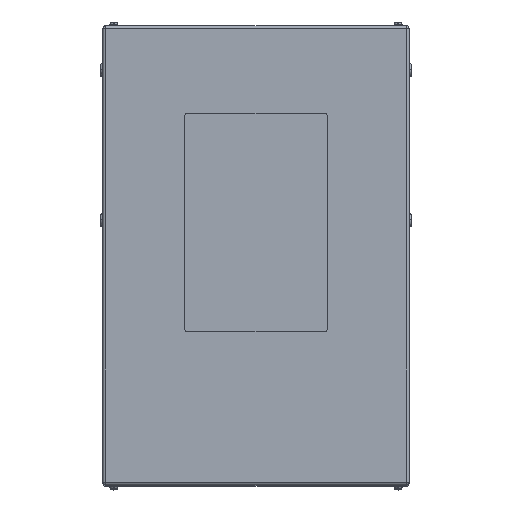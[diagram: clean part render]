
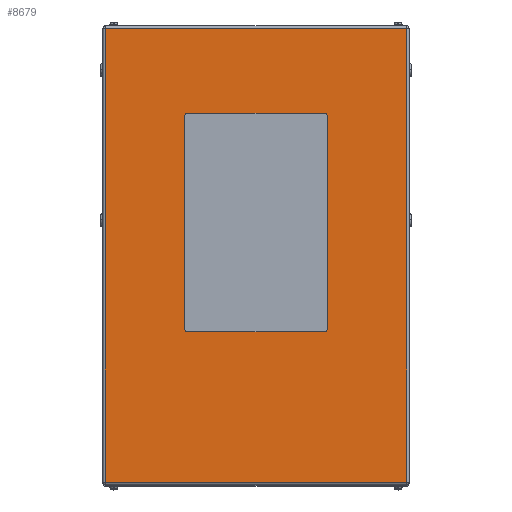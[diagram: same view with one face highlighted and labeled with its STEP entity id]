
A CAD part, top view. The second image highlights one B-rep face of the part: STEP entity #8679.
In plain terms, the highlighted planar face has unit normal (0, 0, 1).
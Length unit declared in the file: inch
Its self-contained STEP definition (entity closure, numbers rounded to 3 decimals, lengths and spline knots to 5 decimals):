
#113 = EDGE_CURVE ( 'NONE', #2123, #2970, #2736, .T. ) ;
#217 = VECTOR ( 'NONE', #20388, 39.37008 ) ;
#765 = CARTESIAN_POINT ( 'NONE',  ( 13.8, 20.734, 33. ) ) ;
#808 = VERTEX_POINT ( 'NONE', #20427 ) ;
#908 = ORIENTED_EDGE ( 'NONE', *, *, #16441, .F. ) ;
#1056 = CIRCLE ( 'NONE', #6445, 0.25 ) ;
#1168 = DIRECTION ( 'NONE',  ( 0., 0., -1. ) ) ;
#1183 = CARTESIAN_POINT ( 'NONE',  ( 6.5, 12.75, 33. ) ) ;
#1252 = DIRECTION ( 'NONE',  ( 1., 0., 0. ) ) ;
#1504 = DIRECTION ( 'NONE',  ( -1., 0., 0. ) ) ;
#1978 = EDGE_CURVE ( 'NONE', #9752, #19917, #3298, .T. ) ;
#2036 = CIRCLE ( 'NONE', #10983, 0.25 ) ;
#2123 = VERTEX_POINT ( 'NONE', #18706 ) ;
#2434 = CARTESIAN_POINT ( 'NONE',  ( 6.25, 13., 33. ) ) ;
#2586 = CIRCLE ( 'NONE', #19267, 0.25 ) ;
#2736 = LINE ( 'NONE', #1183, #10712 ) ;
#2789 = DIRECTION ( 'NONE',  ( 0., -1., 0. ) ) ;
#2970 = VERTEX_POINT ( 'NONE', #13557 ) ;
#3298 = LINE ( 'NONE', #21562, #8046 ) ;
#3344 = DIRECTION ( 'NONE',  ( 0., 1., 0. ) ) ;
#3685 = LINE ( 'NONE', #3817, #23494 ) ;
#3817 = CARTESIAN_POINT ( 'NONE',  ( -13.8, 21., 33. ) ) ;
#3947 = CIRCLE ( 'NONE', #19072, 0.25 ) ;
#4457 = AXIS2_PLACEMENT_3D ( 'NONE', #13539, #1168, #16084 ) ;
#4855 = DIRECTION ( 'NONE',  ( 0., 0., 1. ) ) ;
#5024 = CARTESIAN_POINT ( 'NONE',  ( -13.8, 20.734, 33. ) ) ;
#5925 = DIRECTION ( 'NONE',  ( 0., 0., 1. ) ) ;
#5976 = EDGE_CURVE ( 'NONE', #22935, #18786, #2036, .T. ) ;
#5991 = ORIENTED_EDGE ( 'NONE', *, *, #113, .F. ) ;
#6012 = EDGE_LOOP ( 'NONE', ( #8709, #18746, #8748, #12027 ) ) ;
#6445 = AXIS2_PLACEMENT_3D ( 'NONE', #17105, #20767, #22502 ) ;
#7153 = EDGE_CURVE ( 'NONE', #23755, #9752, #17813, .T. ) ;
#7357 = VECTOR ( 'NONE', #22930, 39.37008 ) ;
#7672 = DIRECTION ( 'NONE',  ( 1., 0., 0. ) ) ;
#8046 = VECTOR ( 'NONE', #1504, 39.37008 ) ;
#8327 = ORIENTED_EDGE ( 'NONE', *, *, #17509, .F. ) ;
#8679 = ADVANCED_FACE ( 'NONE', ( #12629, #8893 ), #23725, .F. ) ;
#8709 = ORIENTED_EDGE ( 'NONE', *, *, #12205, .T. ) ;
#8748 = ORIENTED_EDGE ( 'NONE', *, *, #7153, .T. ) ;
#8876 = CARTESIAN_POINT ( 'NONE',  ( -6.5, 12.75, 33. ) ) ;
#8893 = FACE_OUTER_BOUND ( 'NONE', #6012, .T. ) ;
#9249 = CARTESIAN_POINT ( 'NONE',  ( -6.5, -6.75, 33. ) ) ;
#9752 = VERTEX_POINT ( 'NONE', #765 ) ;
#9920 = VECTOR ( 'NONE', #18210, 39.37008 ) ;
#10712 = VECTOR ( 'NONE', #23533, 39.37008 ) ;
#10826 = CARTESIAN_POINT ( 'NONE',  ( 13.8, -20.734, 33. ) ) ;
#10957 = EDGE_CURVE ( 'NONE', #2970, #13370, #1056, .T. ) ;
#10983 = AXIS2_PLACEMENT_3D ( 'NONE', #14522, #11116, #24030 ) ;
#11015 = VECTOR ( 'NONE', #3344, 39.37008 ) ;
#11094 = ORIENTED_EDGE ( 'NONE', *, *, #19515, .F. ) ;
#11116 = DIRECTION ( 'NONE',  ( 0., 0., 1. ) ) ;
#11823 = LINE ( 'NONE', #19219, #7357 ) ;
#12027 = ORIENTED_EDGE ( 'NONE', *, *, #1978, .T. ) ;
#12095 = VERTEX_POINT ( 'NONE', #15912 ) ;
#12181 = EDGE_LOOP ( 'NONE', ( #15155, #23478, #11094, #14408, #908, #23650, #5991, #8327 ) ) ;
#12205 = EDGE_CURVE ( 'NONE', #19917, #808, #3685, .T. ) ;
#12618 = LINE ( 'NONE', #10826, #9920 ) ;
#12629 = FACE_BOUND ( 'NONE', #12181, .T. ) ;
#12977 = LINE ( 'NONE', #16643, #217 ) ;
#13370 = VERTEX_POINT ( 'NONE', #2434 ) ;
#13539 = CARTESIAN_POINT ( 'NONE',  ( 14., 21., 33. ) ) ;
#13557 = CARTESIAN_POINT ( 'NONE',  ( 6.5, 12.75, 33. ) ) ;
#14406 = CARTESIAN_POINT ( 'NONE',  ( 13.8, 21., 33. ) ) ;
#14408 = ORIENTED_EDGE ( 'NONE', *, *, #14476, .F. ) ;
#14476 = EDGE_CURVE ( 'NONE', #23701, #17430, #2586, .T. ) ;
#14522 = CARTESIAN_POINT ( 'NONE',  ( -6.25, -6.75, 33. ) ) ;
#14642 = DIRECTION ( 'NONE',  ( 0., -1., 0. ) ) ;
#14888 = CARTESIAN_POINT ( 'NONE',  ( -6.25, -7., 33. ) ) ;
#14914 = CARTESIAN_POINT ( 'NONE',  ( -6.25, 13., 33. ) ) ;
#15155 = ORIENTED_EDGE ( 'NONE', *, *, #20585, .F. ) ;
#15184 = CARTESIAN_POINT ( 'NONE',  ( -6.25, 12.75, 33. ) ) ;
#15912 = CARTESIAN_POINT ( 'NONE',  ( 6.25, -7., 33. ) ) ;
#16084 = DIRECTION ( 'NONE',  ( -1., 0., 0. ) ) ;
#16441 = EDGE_CURVE ( 'NONE', #13370, #23701, #11823, .T. ) ;
#16643 = CARTESIAN_POINT ( 'NONE',  ( -6.25, -7., 33. ) ) ;
#17105 = CARTESIAN_POINT ( 'NONE',  ( 6.25, 12.75, 33. ) ) ;
#17430 = VERTEX_POINT ( 'NONE', #20313 ) ;
#17509 = EDGE_CURVE ( 'NONE', #12095, #2123, #3947, .T. ) ;
#17813 = LINE ( 'NONE', #14406, #11015 ) ;
#18090 = LINE ( 'NONE', #8876, #19932 ) ;
#18210 = DIRECTION ( 'NONE',  ( 1., 0., 0. ) ) ;
#18706 = CARTESIAN_POINT ( 'NONE',  ( 6.5, -6.75, 33. ) ) ;
#18746 = ORIENTED_EDGE ( 'NONE', *, *, #20571, .T. ) ;
#18786 = VERTEX_POINT ( 'NONE', #14888 ) ;
#19072 = AXIS2_PLACEMENT_3D ( 'NONE', #21545, #4855, #1252 ) ;
#19219 = CARTESIAN_POINT ( 'NONE',  ( -6.25, 13., 33. ) ) ;
#19267 = AXIS2_PLACEMENT_3D ( 'NONE', #15184, #5925, #7672 ) ;
#19515 = EDGE_CURVE ( 'NONE', #17430, #22935, #18090, .T. ) ;
#19917 = VERTEX_POINT ( 'NONE', #5024 ) ;
#19932 = VECTOR ( 'NONE', #2789, 39.37008 ) ;
#20313 = CARTESIAN_POINT ( 'NONE',  ( -6.5, 12.75, 33. ) ) ;
#20388 = DIRECTION ( 'NONE',  ( 1., 0., 0. ) ) ;
#20427 = CARTESIAN_POINT ( 'NONE',  ( -13.8, -20.734, 33. ) ) ;
#20571 = EDGE_CURVE ( 'NONE', #808, #23755, #12618, .T. ) ;
#20585 = EDGE_CURVE ( 'NONE', #18786, #12095, #12977, .T. ) ;
#20767 = DIRECTION ( 'NONE',  ( 0., 0., 1. ) ) ;
#21545 = CARTESIAN_POINT ( 'NONE',  ( 6.25, -6.75, 33. ) ) ;
#21562 = CARTESIAN_POINT ( 'NONE',  ( 14., 20.734, 33. ) ) ;
#21607 = CARTESIAN_POINT ( 'NONE',  ( 13.8, -20.734, 33. ) ) ;
#22502 = DIRECTION ( 'NONE',  ( -1., 0., 0. ) ) ;
#22930 = DIRECTION ( 'NONE',  ( -1., 0., 0. ) ) ;
#22935 = VERTEX_POINT ( 'NONE', #9249 ) ;
#23478 = ORIENTED_EDGE ( 'NONE', *, *, #5976, .F. ) ;
#23494 = VECTOR ( 'NONE', #14642, 39.37008 ) ;
#23533 = DIRECTION ( 'NONE',  ( 0., 1., 0. ) ) ;
#23650 = ORIENTED_EDGE ( 'NONE', *, *, #10957, .F. ) ;
#23701 = VERTEX_POINT ( 'NONE', #14914 ) ;
#23725 = PLANE ( 'NONE',  #4457 ) ;
#23755 = VERTEX_POINT ( 'NONE', #21607 ) ;
#24030 = DIRECTION ( 'NONE',  ( 1., 0., 0. ) ) ;
